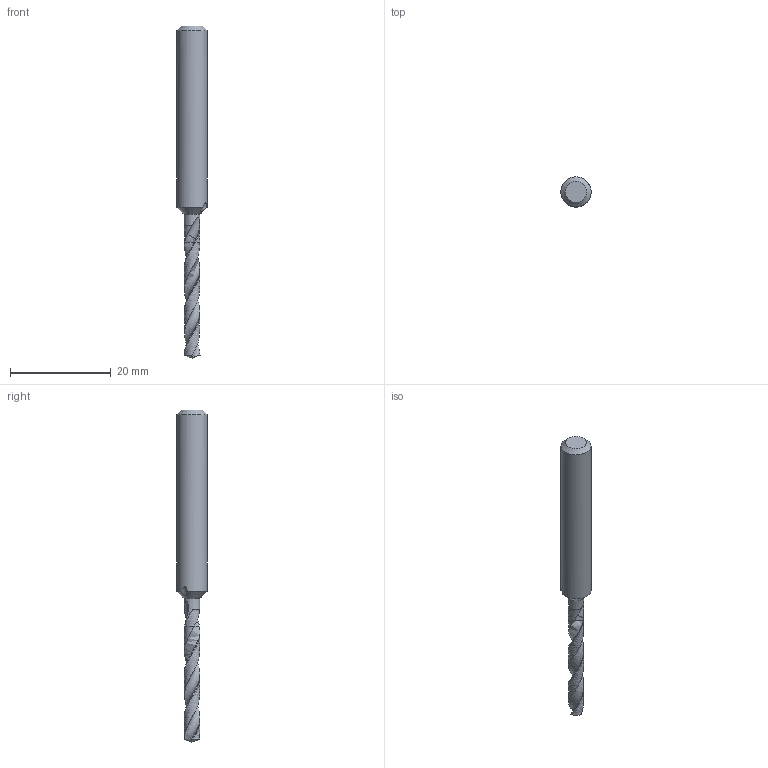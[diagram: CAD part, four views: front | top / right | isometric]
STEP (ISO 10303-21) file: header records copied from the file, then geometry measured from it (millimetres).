
FILE_DESCRIPTION(/* description */ (''),/* implementation_level */ '2;1');
FILE_NAME(/* name */ 'PLM~180329165737~TIX~0160~7462062~MOD~TM02_00~DC150-05-03.175A0-WJ30TA_ISO~FR.STP',/* time_stamp */ '2018-03-29T17:03:18+02:00',/* author */ ('VR - J.Pauli'),/* organization */ ('Walter AG'),/* preprocessor_version */ 'ST-DEVELOPER v15',/* originating_system */ 'SIEMENS PLM Software NX 8.5',/* authorisation */ '');
FILE_SCHEMA (('AUTOMOTIVE_DESIGN { 1 0 10303 214 3 1 1 1 }'));
Length unit declared in the file: millimetre
Products named in the file (1): PLM~180329165737~TIX~0160~7462062~MOD~TM02_00~DC150-05-03.175A0-WJ30T
A_ISO~FR
Bounding box: 5.99 x 5.99 x 66 mm (x, y, z)
Volume: 1162.2 mm3; surface area: 1025.8 mm2
Topology: 2 solids, 2 shells, 24 faces, 63 edges, 45 vertices
Faces by surface type: bspline 8, cone 6, plane 5, cylinder 5
Full cylindrical faces by diameter (mm): 6 x1
Entity records: 14401 total; most frequent: CARTESIAN_POINT 13873, ORIENTED_EDGE 102, DIRECTION 73, EDGE_CURVE 51, VERTEX_POINT 36, B_SPLINE_CURVE_WITH_KNOTS 36, AXIS2_PLACEMENT_3D 35, EDGE_LOOP 28
